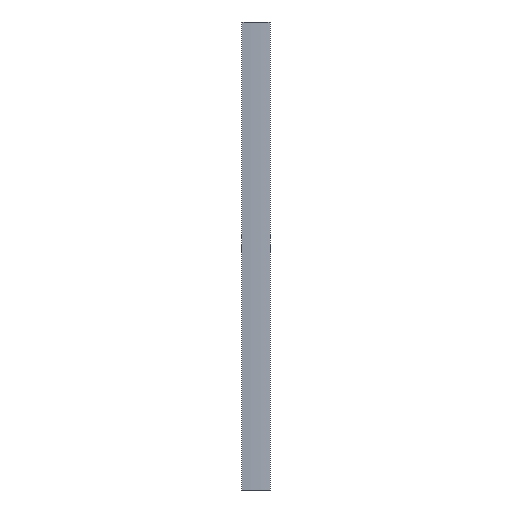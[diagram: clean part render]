
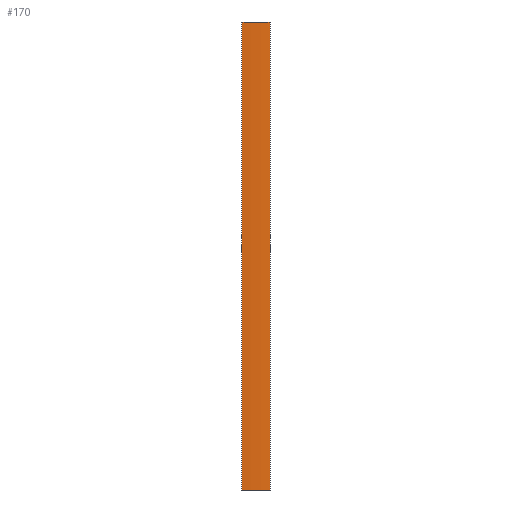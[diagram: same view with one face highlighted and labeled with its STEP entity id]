
A CAD part, left-side view. The second image highlights one B-rep face of the part: STEP entity #170.
In plain terms, the highlighted cylindrical face has radius 450.5 mm (diameter 901 mm), a partial arc.
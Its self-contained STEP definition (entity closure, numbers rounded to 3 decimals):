
#15 = VERTEX_POINT ( 'NONE', #766 ) ;
#31 = DIRECTION ( 'NONE',  ( 0., 0., 1. ) ) ;
#42 = DIRECTION ( 'NONE',  ( 1., 0., 0. ) ) ;
#63 = VECTOR ( 'NONE', #414, 1000. ) ;
#64 = CARTESIAN_POINT ( 'NONE',  ( 0., 60., 0. ) ) ;
#99 = EDGE_CURVE ( 'NONE', #677, #632, #308, .T. ) ;
#104 = CARTESIAN_POINT ( 'NONE',  ( 449.5, 30., 0. ) ) ;
#112 = VECTOR ( 'NONE', #218, 1000. ) ;
#117 = DIRECTION ( 'NONE',  ( 0., 0., 1. ) ) ;
#123 = EDGE_LOOP ( 'NONE', ( #582, #345, #431, #538 ) ) ;
#161 = CIRCLE ( 'NONE', #498, 450.5 ) ;
#170 = ADVANCED_FACE ( 'NONE', ( #648 ), #886, .T. ) ;
#218 = DIRECTION ( 'NONE',  ( 0., 0., 1. ) ) ;
#254 = EDGE_CURVE ( 'NONE', #904, #677, #754, .T. ) ;
#257 = LINE ( 'NONE', #326, #63 ) ;
#296 = CARTESIAN_POINT ( 'NONE',  ( 0., 0., 0. ) ) ;
#308 = CIRCLE ( 'NONE', #534, 450.5 ) ;
#326 = CARTESIAN_POINT ( 'NONE',  ( 0., 0., -1000. ) ) ;
#343 = CARTESIAN_POINT ( 'NONE',  ( 449.5, 30., -1000. ) ) ;
#345 = ORIENTED_EDGE ( 'NONE', *, *, #254, .F. ) ;
#411 = DIRECTION ( 'NONE',  ( 1., 0., 0. ) ) ;
#414 = DIRECTION ( 'NONE',  ( 0., 0., 1. ) ) ;
#415 = DIRECTION ( 'NONE',  ( 0., 0., 1. ) ) ;
#431 = ORIENTED_EDGE ( 'NONE', *, *, #536, .T. ) ;
#498 = AXIS2_PLACEMENT_3D ( 'NONE', #343, #415, #42 ) ;
#510 = CARTESIAN_POINT ( 'NONE',  ( 449.5, 30., -1000. ) ) ;
#534 = AXIS2_PLACEMENT_3D ( 'NONE', #104, #117, #653 ) ;
#536 = EDGE_CURVE ( 'NONE', #904, #15, #161, .T. ) ;
#538 = ORIENTED_EDGE ( 'NONE', *, *, #901, .T. ) ;
#582 = ORIENTED_EDGE ( 'NONE', *, *, #99, .F. ) ;
#632 = VERTEX_POINT ( 'NONE', #296 ) ;
#634 = CARTESIAN_POINT ( 'NONE',  ( 0., 60., -1000. ) ) ;
#648 = FACE_OUTER_BOUND ( 'NONE', #123, .T. ) ;
#653 = DIRECTION ( 'NONE',  ( 1., 0., 0. ) ) ;
#677 = VERTEX_POINT ( 'NONE', #64 ) ;
#754 = LINE ( 'NONE', #975, #112 ) ;
#766 = CARTESIAN_POINT ( 'NONE',  ( 0., 0., -1000. ) ) ;
#784 = AXIS2_PLACEMENT_3D ( 'NONE', #510, #31, #411 ) ;
#886 = CYLINDRICAL_SURFACE ( 'NONE', #784, 450.5 ) ;
#901 = EDGE_CURVE ( 'NONE', #15, #632, #257, .T. ) ;
#904 = VERTEX_POINT ( 'NONE', #634 ) ;
#975 = CARTESIAN_POINT ( 'NONE',  ( 0., 60., -1000. ) ) ;
